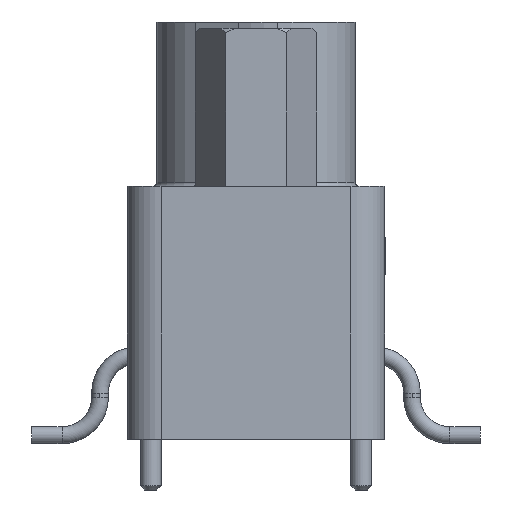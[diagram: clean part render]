
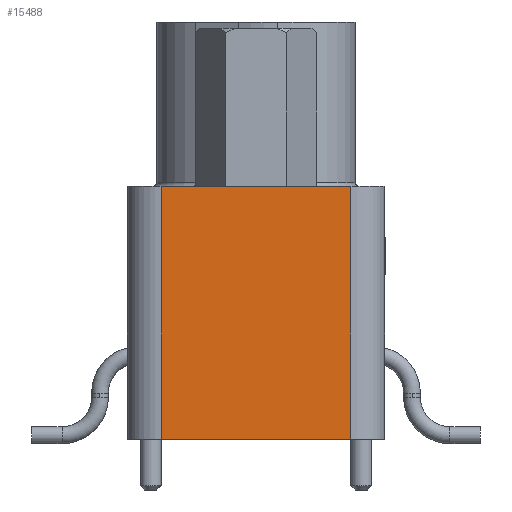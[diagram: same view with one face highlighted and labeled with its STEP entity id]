
A CAD part, left-side view. The second image highlights one B-rep face of the part: STEP entity #15488.
In plain terms, the highlighted planar face has unit normal (-1, 0, 0).
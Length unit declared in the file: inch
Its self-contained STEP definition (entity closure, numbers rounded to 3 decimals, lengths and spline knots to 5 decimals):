
#14 = EDGE_CURVE ( 'NONE', #23301, #50813, #52245, .T. ) ;
#171 = EDGE_CURVE ( 'NONE', #29981, #33748, #52571, .T. ) ;
#8211 = EDGE_CURVE ( 'NONE', #29981, #23301, #12273, .T. ) ;
#8235 = EDGE_CURVE ( 'NONE', #33748, #50813, #12292, .T. ) ;
#11221 = CARTESIAN_POINT ( 'NONE',  ( -0.7375, -0.1125, 0.04 ) ) ;
#12273 = LINE ( 'NONE', #17402, #12275 ) ;
#12275 = VECTOR ( 'NONE', #17405, 39.37008 ) ;
#12292 = LINE ( 'NONE', #17522, #12295 ) ;
#12295 = VECTOR ( 'NONE', #17527, 39.37008 ) ;
#14005 = AXIS2_PLACEMENT_3D ( 'NONE', #20668, #20664, #20674 ) ;
#15488 = ADVANCED_FACE ( 'NONE', ( #35717 ), #20672, .T. ) ;
#17402 = CARTESIAN_POINT ( 'NONE',  ( -0.7375, -0.1125, 0.04 ) ) ;
#17405 = DIRECTION ( 'NONE',  ( 0., 1., 0. ) ) ;
#17522 = CARTESIAN_POINT ( 'NONE',  ( -0.7375, -0.1125, -0.26 ) ) ;
#17527 = DIRECTION ( 'NONE',  ( 0., 1., 0. ) ) ;
#20664 = DIRECTION ( 'NONE',  ( -1., 0., 0. ) ) ;
#20668 = CARTESIAN_POINT ( 'NONE',  ( -0.7375, -0.1125, 0.04 ) ) ;
#20672 = PLANE ( 'NONE',  #14005 ) ;
#20674 = DIRECTION ( 'NONE',  ( 0., 0., 1. ) ) ;
#23301 = VERTEX_POINT ( 'NONE', #41378 ) ;
#27003 = CARTESIAN_POINT ( 'NONE',  ( -0.7375, -0.1125, 0.04 ) ) ;
#27056 = DIRECTION ( 'NONE',  ( 0., 0., -1. ) ) ;
#29448 = CARTESIAN_POINT ( 'NONE',  ( -0.7375, 0.1125, -0.26 ) ) ;
#29981 = VERTEX_POINT ( 'NONE', #11221 ) ;
#33748 = VERTEX_POINT ( 'NONE', #37128 ) ;
#35717 = FACE_OUTER_BOUND ( 'NONE', #57148, .T. ) ;
#37128 = CARTESIAN_POINT ( 'NONE',  ( -0.7375, -0.1125, -0.26 ) ) ;
#39874 = DIRECTION ( 'NONE',  ( 0., 0., -1. ) ) ;
#39902 = CARTESIAN_POINT ( 'NONE',  ( -0.7375, 0.1125, 0.04 ) ) ;
#41378 = CARTESIAN_POINT ( 'NONE',  ( -0.7375, 0.1125, 0.04 ) ) ;
#50813 = VERTEX_POINT ( 'NONE', #29448 ) ;
#52245 = LINE ( 'NONE', #39902, #52250 ) ;
#52250 = VECTOR ( 'NONE', #39874, 39.37008 ) ;
#52571 = LINE ( 'NONE', #27003, #52578 ) ;
#52578 = VECTOR ( 'NONE', #27056, 39.37008 ) ;
#57148 = EDGE_LOOP ( 'NONE', ( #57278, #57279, #57280, #57281 ) ) ;
#57278 = ORIENTED_EDGE ( 'NONE', *, *, #14, .T. ) ;
#57279 = ORIENTED_EDGE ( 'NONE', *, *, #8235, .F. ) ;
#57280 = ORIENTED_EDGE ( 'NONE', *, *, #171, .F. ) ;
#57281 = ORIENTED_EDGE ( 'NONE', *, *, #8211, .T. ) ;
